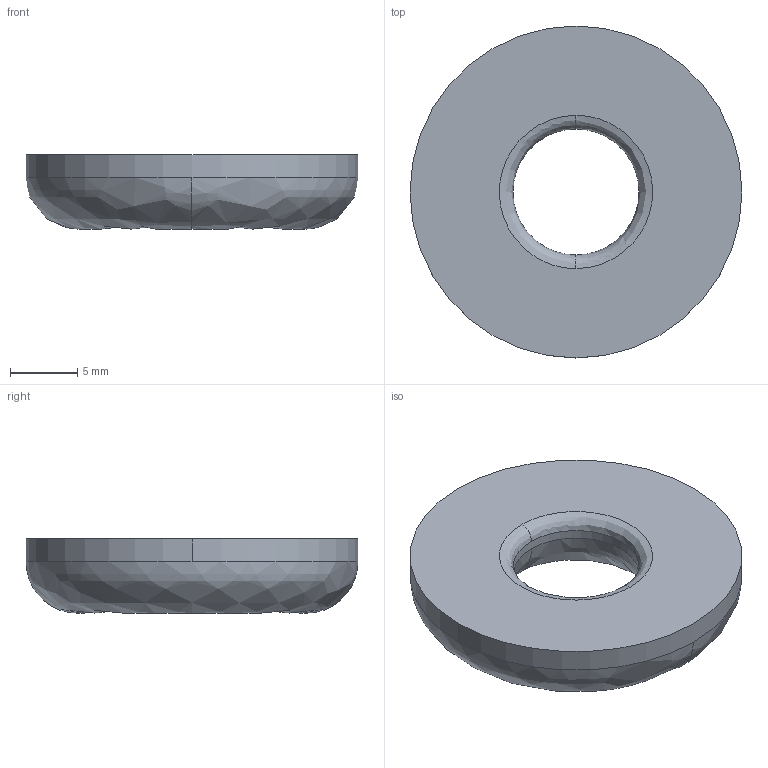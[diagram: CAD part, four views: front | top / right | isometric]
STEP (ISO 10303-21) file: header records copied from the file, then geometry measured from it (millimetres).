
FILE_DESCRIPTION (( 'STEP AP203' ), '1' );
FILE_NAME ('LRGK1000_Gasket_Compressed 18%.STEP', '2021-01-12T17:57:43', ( '' ), ( '' ), 'SwSTEP 2.0', 'SolidWorks 2020', '' );
FILE_SCHEMA (( 'CONFIG_CONTROL_DESIGN' ));
Length unit declared in the file: inch
Products named in the file (1): LRGK1000_Gasket_Compressed 18%
Bounding box: 24.77 x 24.77 x 5.54 mm (x, y, z)
Volume: 1936.3 mm3; surface area: 1229.6 mm2
Topology: 1 solids, 1 shells, 9 faces, 24 edges, 16 vertices
Faces by surface type: bspline 4, cylinder 4, plane 1
Entity records: 423 total; most frequent: CARTESIAN_POINT 116, DIRECTION 52, ORIENTED_EDGE 48, AXIS2_PLACEMENT_3D 24, EDGE_CURVE 24, CIRCLE 18, VERTEX_POINT 16, EDGE_LOOP 10
